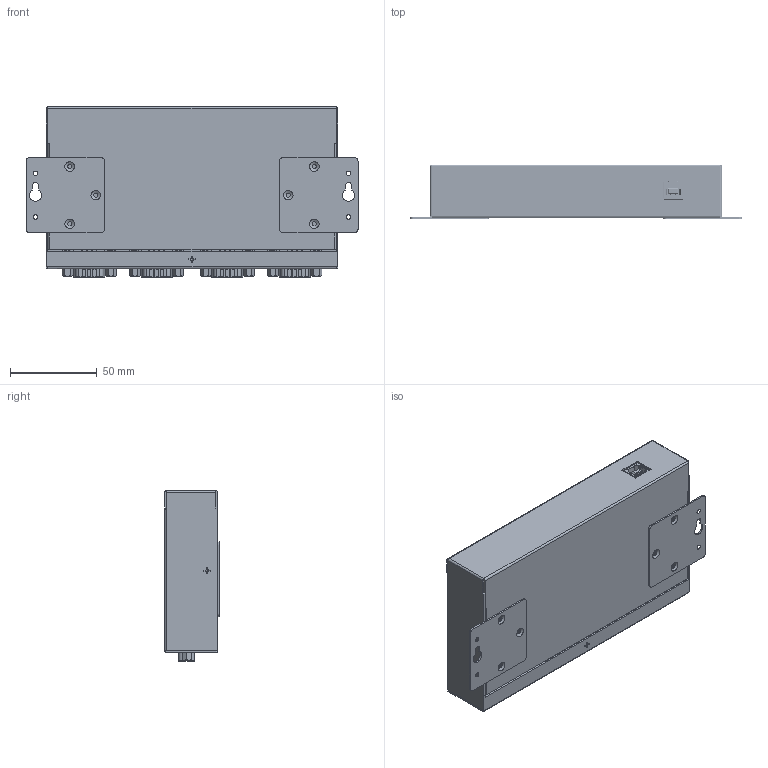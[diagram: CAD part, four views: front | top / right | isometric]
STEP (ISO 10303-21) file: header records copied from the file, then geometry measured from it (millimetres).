
FILE_DESCRIPTION(/* description */ (''),/* implementation_level */ '2;1');
FILE_NAME(/* name */ '/Users/leo/Desktop/Coolgear May/USB2-4com-m/USB2-4com-m Model3D LPV1.step',/* time_stamp */ '2021-08-05T16:25:47-04:00',/* author */ (''),/* organization */ (''),/* preprocessor_version */ 'ST-DEVELOPER v18.1',/* originating_system */ 'Autodesk Translation Framework v10.9.0.1377',/* authorisation */ '');
FILE_SCHEMA (('AUTOMOTIVE_DESIGN { 1 0 10303 214 3 1 1 }'));
Products named in the file (15): USB2-4com-m; Component3; 5063N12_Circuit Board D-Sub Connector; 5063N12_Circuit Board D-Sub Connector(Mirror); USB type B first Gen White v3; Housing1; pin1; shielding; pin2; shielding_2; Housing3; Bolt M3X0.5 90Angle head.5-4mmL v1; Mounting plate SideR v1; Mounting plate SideR v1(Mirror); Component24
Assembly tree (21 placements, depth 3):
  USB2-4com-m
    Component3
    5063N12_Circuit Board D-Sub Connector  x2
    5063N12_Circuit Board D-Sub Connector(Mirror)  x2
    USB type B first Gen White v3
      Housing1
      pin1  x2
      shielding
      pin2  x2
      shielding_2
      Housing3
    Bolt M3X0.5 90Angle head.5-4mmL v1  x4
    Mounting plate SideR v1
    Mounting plate SideR v1(Mirror)
    Component24
Bounding box: 191.1 x 31.26 x 98.25 mm (x, y, z)
Volume: 65046.5 mm3; surface area: 114136.1 mm2
Topology: 4 solids, 5 shells, 2872 faces, 8260 edges, 5332 vertices
Faces by surface type: plane 1986, cylinder 685, bspline 75, cone 58, sphere 36, torus 32
Full cylindrical faces by diameter (mm): 1 x36, 2.221 x96, 2.323 x12, 2.529 x16, 3 x109, 5 x8, 5.48 x8
Entity records: 123266 total; most frequent: CARTESIAN_POINT 48793, ORIENTED_EDGE 16440, DIRECTION 14081, EDGE_CURVE 8220, LINE 6157, VECTOR 6157, VERTEX_POINT 5332, AXIS2_PLACEMENT_3D 3962
